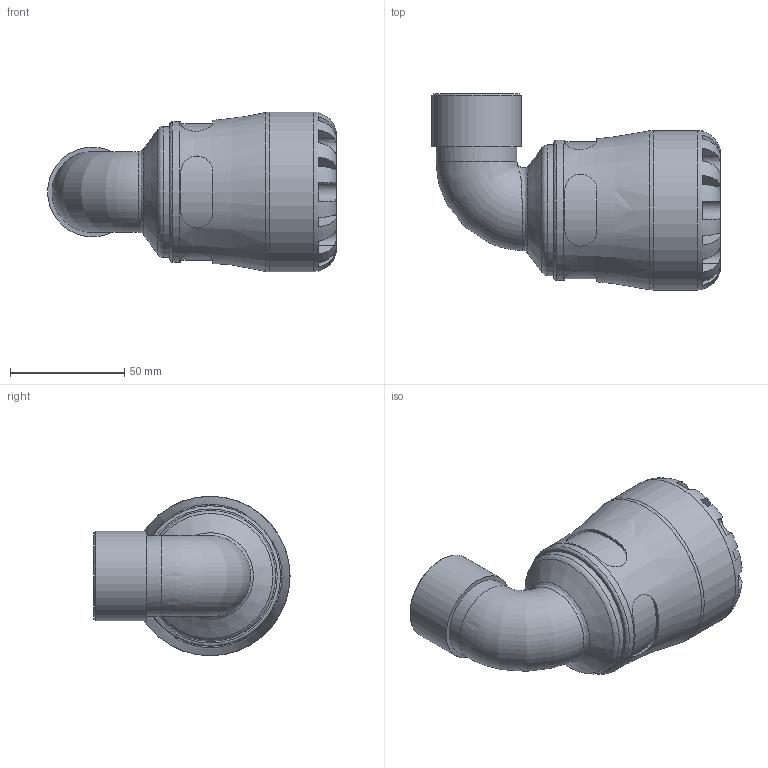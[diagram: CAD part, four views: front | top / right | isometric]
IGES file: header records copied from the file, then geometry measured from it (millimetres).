
Global section: file name: 101500040010_191500040010.ipt; native system: Autodesk Inventor 2015; preprocessor: unknown; author: KIM; date: 20170730.115221; units: millimetre
Bounding box: 126.69 x 86 x 70 mm (x, y, z)
Volume: 198766.6 mm3; surface area: 46732.7 mm2
Topology: 1 solids, 1 shells, 111 faces, 283 edges, 181 vertices
Faces by surface type: plane 62, revolution 28, cylinder 17, bspline 2, cone 2
Full cylindrical faces by diameter (mm): 35.44 x1, 39.378 x1, 57.4 x1, 61.6 x1, 70 x1
